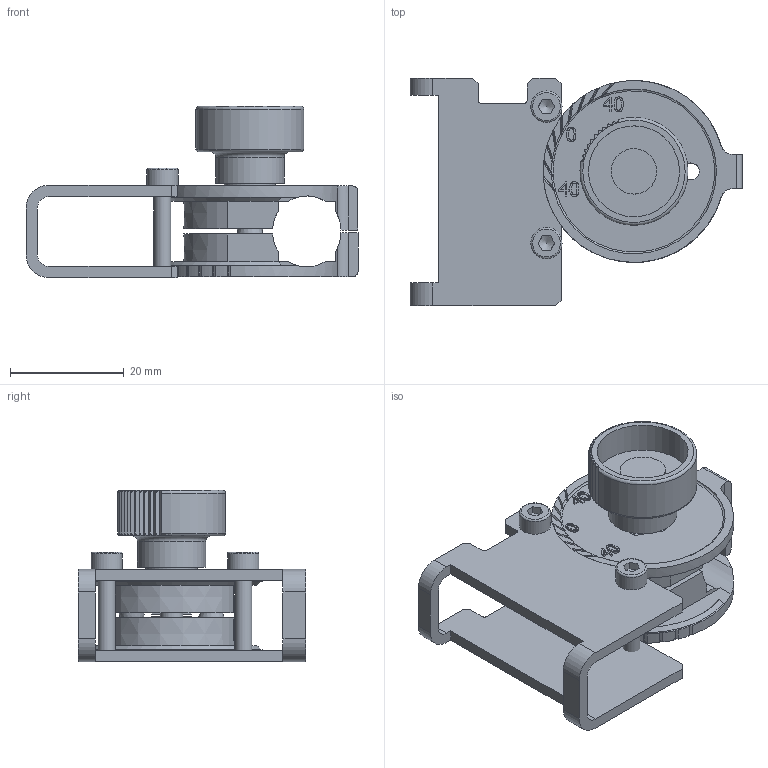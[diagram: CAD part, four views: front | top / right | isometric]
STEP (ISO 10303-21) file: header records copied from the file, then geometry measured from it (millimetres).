
FILE_DESCRIPTION(/* description */ (''),/* implementation_level */ '2;1');
FILE_NAME(/* name */ 'C:\#Vault-WorkDir\Konstruktions-Dokumente\Projekte\F25\Zubehör\Sensoclip-F25.stp',/* time_stamp */ '2018-02-20T13:30:46+01:00',/* author */ ('juergen.haessler'),/* organization */ (''),/* preprocessor_version */ 'ST-DEVELOPER v16.1',/* originating_system */ 'Autodesk Inventor 2016',/* authorisation */ '');
FILE_SCHEMA (('AUTOMOTIVE_DESIGN { 1 0 10303 214 3 1 1 }'));
Length unit declared in the file: millimetre
Products named in the file (1): GH-ENG-0022985
Bounding box: 58.4 x 40 x 30.12 mm (x, y, z)
Volume: 12546.8 mm3; surface area: 11970.3 mm2
Topology: 8 solids, 8 shells, 516 faces, 1291 edges, 827 vertices
Faces by surface type: plane 312, cylinder 88, bspline 68, torus 27, cone 21
Full cylindrical faces by diameter (mm): 2.459 x2, 3 x4, 3.242 x1, 3.8 x2, 4 x2, 4.3 x2, 5.5 x2, 7 x1, 8 x1, 9 x1, 12 x1, 16 x1
Entity records: 16489 total; most frequent: CARTESIAN_POINT 4381, ORIENTED_EDGE 2470, DIRECTION 2106, EDGE_CURVE 1235, VERTEX_POINT 815, LINE 742, VECTOR 742, AXIS2_PLACEMENT_3D 682
